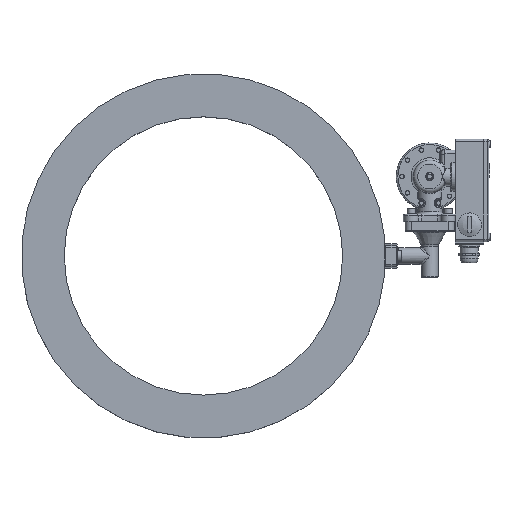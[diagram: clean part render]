
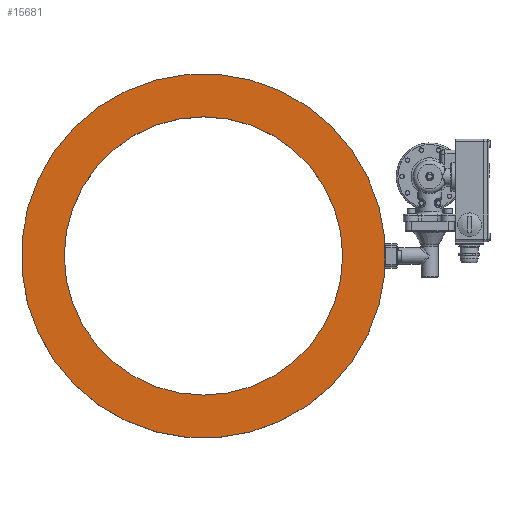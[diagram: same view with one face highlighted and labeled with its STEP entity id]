
A CAD part, top view. The second image highlights one B-rep face of the part: STEP entity #15681.
In plain terms, the highlighted planar face has unit normal (0, 0, 1).
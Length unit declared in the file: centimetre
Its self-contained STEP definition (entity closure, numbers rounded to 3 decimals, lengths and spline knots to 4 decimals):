
#2902=VECTOR('',#19987,1.);
#3905=LINE('',#34019,#2902);
#4849=PLANE('',#16909);
#6142=VERTEX_POINT('',#34010);
#6146=VERTEX_POINT('',#34018);
#6147=VERTEX_POINT('',#34020);
#6689=CIRCLE('',#16902,17.);
#6692=CIRCLE('',#16907,22.25);
#8629=EDGE_CURVE('',#6142,#6142,#6689,.T.);
#8633=EDGE_CURVE('',#6146,#6147,#3905,.T.);
#8636=EDGE_CURVE('',#6147,#6146,#6692,.T.);
#12525=ORIENTED_EDGE('',*,*,#8629,.T.);
#12526=ORIENTED_EDGE('',*,*,#8636,.F.);
#12527=ORIENTED_EDGE('',*,*,#8633,.F.);
#13678=EDGE_LOOP('',(#12525));
#13679=EDGE_LOOP('',(#12526,#12527));
#14812=FACE_BOUND('',#13678,.T.);
#14813=FACE_BOUND('',#13679,.T.);
#15681=ADVANCED_FACE('',(#14812,#14813),#4849,.T.);
#16902=AXIS2_PLACEMENT_3D('',#34009,#19980,#19981);
#16907=AXIS2_PLACEMENT_3D('',#34024,#19993,#19994);
#16909=AXIS2_PLACEMENT_3D('',#34026,#19996,$);
#19980=DIRECTION('',(0.,0.,-1.));
#19981=DIRECTION('',(-17.,0.,0.));
#19987=DIRECTION('',(0.,-1.,0.));
#19993=DIRECTION('',(0.,0.,-1.));
#19994=DIRECTION('',(-22.25,0.,0.));
#19996=DIRECTION('',(0.,0.,1.));
#34009=CARTESIAN_POINT('',(-27.669,-6.7693,5.7468));
#34010=CARTESIAN_POINT('',(-10.669,-6.7693,5.7468));
#34018=CARTESIAN_POINT('',(-5.519,-4.6622,5.7468));
#34019=CARTESIAN_POINT('',(-5.519,-4.6622,5.7468));
#34020=CARTESIAN_POINT('',(-5.519,-8.8765,5.7468));
#34024=CARTESIAN_POINT('',(-27.669,-6.7693,5.7468));
#34026=CARTESIAN_POINT('',(-25.6391,-6.7693,5.7468));
